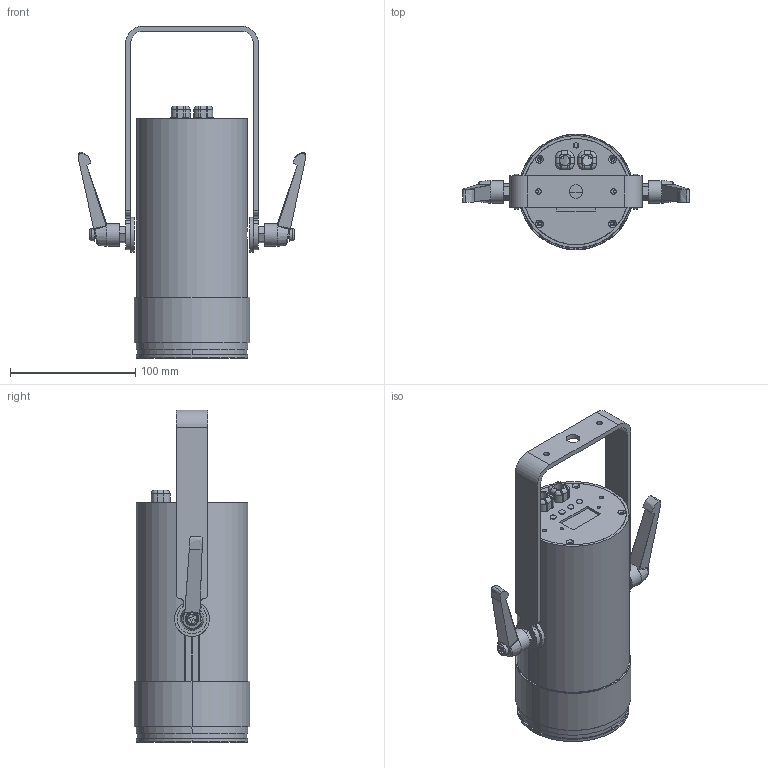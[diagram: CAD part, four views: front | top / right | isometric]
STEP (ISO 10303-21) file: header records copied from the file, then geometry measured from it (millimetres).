
FILE_DESCRIPTION (( 'STEP AP214' ), '1' );
FILE_NAME ('Art 50T Wash.STEP', '2025-04-02T00:44:56', ( '' ), ( '' ), 'SwSTEP 2.0', 'SolidWorks 2023', '' );
FILE_SCHEMA (( 'AUTOMOTIVE_DESIGN' ));
Length unit declared in the file: millimetre
Products named in the file (20): XINGCAISANREQI____^00-11__ASM_00_asm_1_00_asm; 零件3; ASM0003___ASM^00_asm_1_00_asm; Art 50T Wash; 00-11__ASM^00_asm_1_00_asm; T5__^ASM0001___ASM_ASM0002___ASM_ASM0003___ASM_00_asm_1_00_asm; XIANSHI-MINI__^HOUGAI___ASM_00-11__ASM_00_asm_1_00_asm; ASM0001___ASM^ASM0002___ASM_ASM0003___ASM_00_asm_1_00_asm; T2__^ASM0003___ASM_00_asm_1_00_asm; HOUGAI___ASM^00-11__ASM_00_asm_1_00_asm; B2__^HOUGAI___ASM_00-11__ASM_00_asm_1_00_asm; 00_asm_1^00_asm; T3__^ASM0001___ASM_ASM0002___ASM_ASM0003___ASM_00_asm_1_00_asm; ASM0002___ASM^ASM0003___ASM_00_asm_1_00_asm; XK__^HOUGAI___ASM_00-11__ASM_00_asm_1_00_asm; T1__^ASM0003___ASM_00_asm_1_00_asm; cross recessed cheese head screws gb_GB_CROSS_SCREWS_TYPE2 M6X8-8  H type-N; 角度调节器组件02; 角度调节器组件03; T4__^ASM0001___ASM_ASM0002___ASM_ASM0003___ASM_00_asm_1_00_asm
Assembly tree (25 placements, depth 6):
  Art 50T Wash
    00_asm_1^00_asm
      ASM0003___ASM^00_asm_1_00_asm
        ASM0002___ASM^ASM0003___ASM_00_asm_1_00_asm
          ASM0001___ASM^ASM0002___ASM_ASM0003___ASM_00_asm_1_00_asm
            T4__^ASM0001___ASM_ASM0002___ASM_ASM0003___ASM_00_asm_1_00_asm
            T5__^ASM0001___ASM_ASM0002___ASM_ASM0003___ASM_00_asm_1_00_asm
            T3__^ASM0001___ASM_ASM0002___ASM_ASM0003___ASM_00_asm_1_00_asm  x3
        T2__^ASM0003___ASM_00_asm_1_00_asm
        T1__^ASM0003___ASM_00_asm_1_00_asm
      00-11__ASM^00_asm_1_00_asm
        HOUGAI___ASM^00-11__ASM_00_asm_1_00_asm
          B2__^HOUGAI___ASM_00-11__ASM_00_asm_1_00_asm
          XIANSHI-MINI__^HOUGAI___ASM_00-11__ASM_00_asm_1_00_asm
          XK__^HOUGAI___ASM_00-11__ASM_00_asm_1_00_asm  x2
        XINGCAISANREQI____^00-11__ASM_00_asm_1_00_asm
    角度调节器组件02  x2
    角度调节器组件03  x2
    零件3
    cross recessed cheese head screws gb_GB_CROSS_SCREWS_TYPE2 M6X8-8  H type-N  x2
Bounding box: 181.54 x 92.5 x 265.5 mm (x, y, z)
Volume: 375187.2 mm3; surface area: 276072.8 mm2
Topology: 19 solids, 19 shells, 856 faces, 2253 edges, 1451 vertices
Faces by surface type: plane 443, cylinder 319, bspline 48, cone 40, torus 4, sphere 2
Full cylindrical faces by diameter (mm): 3.3 x2, 4.5 x2, 6 x2, 6.5 x2, 7 x4, 11 x3, 14 x2, 18 x2, 28 x2
Entity records: 31566 total; most frequent: CARTESIAN_POINT 13330, ORIENTED_EDGE 3734, DIRECTION 3639, EDGE_CURVE 1867, AXIS2_PLACEMENT_3D 1301, VERTEX_POINT 1222, LINE 1037, VECTOR 1037
